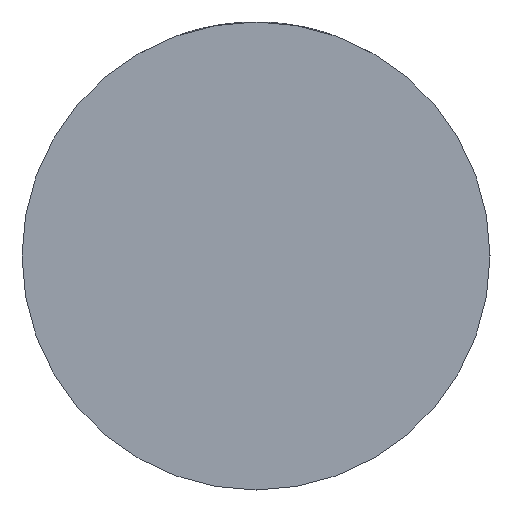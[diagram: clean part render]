
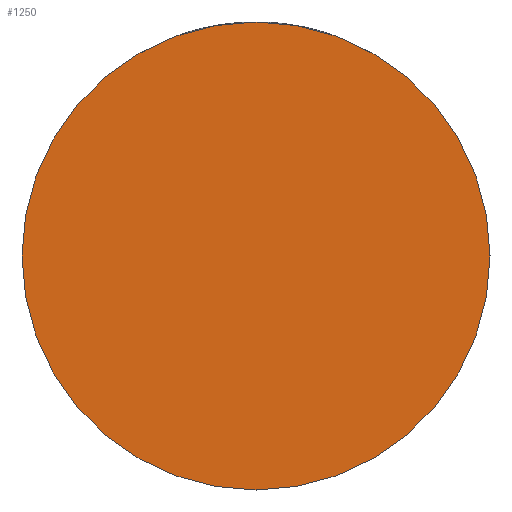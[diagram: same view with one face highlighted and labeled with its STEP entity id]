
A CAD part, front view. The second image highlights one B-rep face of the part: STEP entity #1250.
In plain terms, the highlighted planar face has unit normal (0, -1, 0).
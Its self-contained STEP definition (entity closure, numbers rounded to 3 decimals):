
#131 = ORIENTED_EDGE ( 'NONE', *, *, #3331, .F. ) ;
#528 = FACE_OUTER_BOUND ( 'NONE', #2101, .T. ) ;
#927 = VERTEX_POINT ( 'NONE', #4070 ) ;
#1250 = ADVANCED_FACE ( 'NONE', ( #528 ), #2912, .T. ) ;
#1648 = DIRECTION ( 'NONE',  ( -1., 0., 0. ) ) ;
#1703 = CARTESIAN_POINT ( 'NONE',  ( 0., -21., 0. ) ) ;
#2077 = CARTESIAN_POINT ( 'NONE',  ( 34., -21., 0. ) ) ;
#2101 = EDGE_LOOP ( 'NONE', ( #131, #2750 ) ) ;
#2187 = DIRECTION ( 'NONE',  ( 0., -1., 0. ) ) ;
#2750 = ORIENTED_EDGE ( 'NONE', *, *, #4821, .F. ) ;
#2768 = CARTESIAN_POINT ( 'NONE',  ( 0., -21., 0. ) ) ;
#2912 = PLANE ( 'NONE',  #3175 ) ;
#3175 = AXIS2_PLACEMENT_3D ( 'NONE', #4986, #2187, #4588 ) ;
#3331 = EDGE_CURVE ( 'NONE', #927, #3604, #4227, .T. ) ;
#3356 = AXIS2_PLACEMENT_3D ( 'NONE', #1703, #3737, #1648 ) ;
#3604 = VERTEX_POINT ( 'NONE', #2077 ) ;
#3737 = DIRECTION ( 'NONE',  ( 0., 1., 0. ) ) ;
#4070 = CARTESIAN_POINT ( 'NONE',  ( -34., -21., 0. ) ) ;
#4227 = CIRCLE ( 'NONE', #3356, 34. ) ;
#4232 = AXIS2_PLACEMENT_3D ( 'NONE', #2768, #4842, #4868 ) ;
#4588 = DIRECTION ( 'NONE',  ( 1., 0., 0. ) ) ;
#4821 = EDGE_CURVE ( 'NONE', #3604, #927, #5195, .T. ) ;
#4842 = DIRECTION ( 'NONE',  ( 0., 1., 0. ) ) ;
#4868 = DIRECTION ( 'NONE',  ( -1., 0., 0. ) ) ;
#4986 = CARTESIAN_POINT ( 'NONE',  ( 0., -21., 0. ) ) ;
#5195 = CIRCLE ( 'NONE', #4232, 34. ) ;
